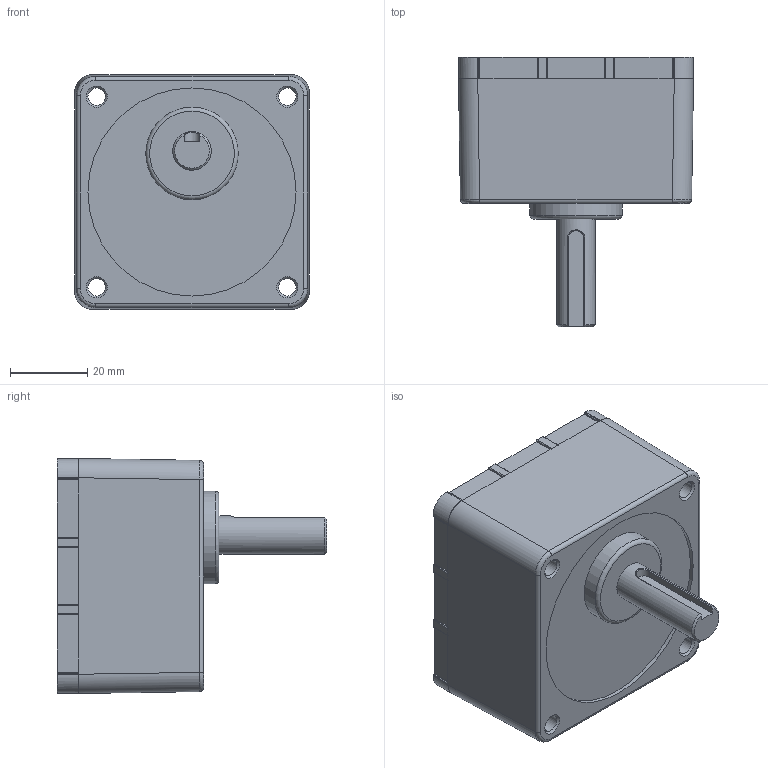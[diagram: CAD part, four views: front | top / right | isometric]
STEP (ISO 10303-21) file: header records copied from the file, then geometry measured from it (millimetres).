
FILE_DESCRIPTION((''),'2;1');
FILE_NAME('E:\2공장-도면\3D\STEP FILE\K6H(30~100)B.stp','2014-08-18T15:42:14',('輺'),(''),'Autodesk Inventor 2008','Autodesk Inventor 2008','');
FILE_SCHEMA(('CONFIG_CONTROL_DESIGN'));
Length unit declared in the file: millimetre
Products named in the file (1): 부품51
Bounding box: 61 x 70 x 61 mm (x, y, z)
Volume: 131635.2 mm3; surface area: 20050 mm2
Topology: 1 solids, 1 shells, 151 faces, 371 edges, 231 vertices
Faces by surface type: plane 86, cylinder 50, bspline 7, cone 7, torus 1
Full cylindrical faces by diameter (mm): 4.5 x4, 5 x4, 6 x1, 10 x1, 24 x1, 54 x2
Entity records: 4954 total; most frequent: CARTESIAN_POINT 1235, DIRECTION 739, ORIENTED_EDGE 700, EDGE_CURVE 350, AXIS2_PLACEMENT_3D 256, VERTEX_POINT 230, VECTOR 227, LINE 227
